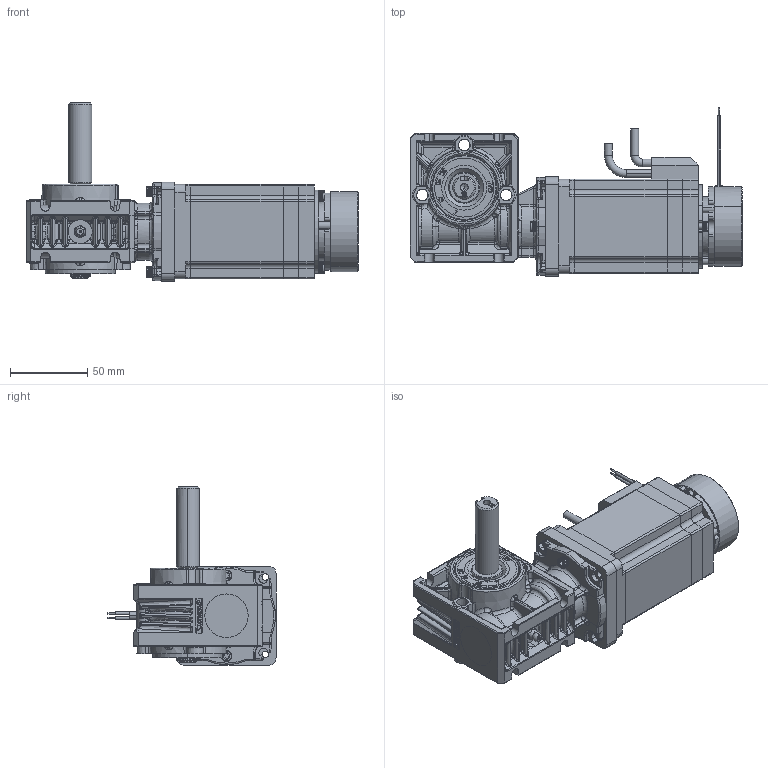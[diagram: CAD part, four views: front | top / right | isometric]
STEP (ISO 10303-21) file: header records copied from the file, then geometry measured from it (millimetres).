
FILE_DESCRIPTION (( 'STEP AP214' ), '1' );
FILE_NAME ('PBL60-50-GB28 - Brake - Shaft.STEP', '2024-11-26T14:28:46', ( '' ), ( '' ), 'SwSTEP 2.0', 'SolidWorks 2023', '' );
FILE_SCHEMA (( 'AUTOMOTIVE_DESIGN' ));
Length unit declared in the file: millimetre
Products named in the file (1): PBL60-50-GB28 - Brake - Shaft
Bounding box: 214.24 x 108.5 x 115.22 mm (x, y, z)
Volume: 601580.2 mm3; surface area: 165516.9 mm2
Topology: 29 solids, 29 shells, 4743 faces, 12335 edges, 7758 vertices
Faces by surface type: cylinder 1930, plane 1378, bspline 980, torus 177, cone 158, sphere 120
Entity records: 253576 total; most frequent: CARTESIAN_POINT 92694, ORIENTED_EDGE 24400, DIRECTION 20278, EDGE_CURVE 12200, VERTEX_POINT 7749, AXIS2_PLACEMENT_3D 7450, VECTOR 5378, LINE 5378
